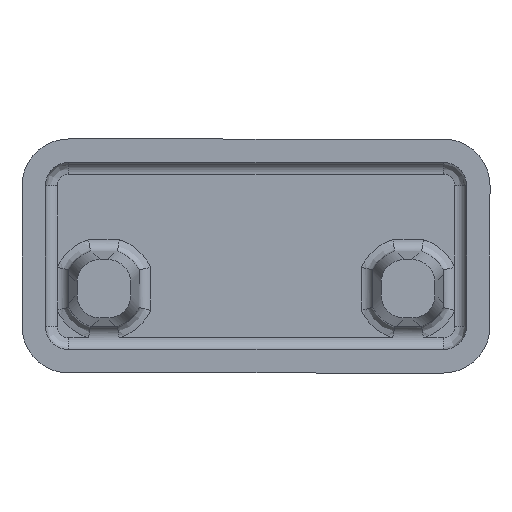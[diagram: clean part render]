
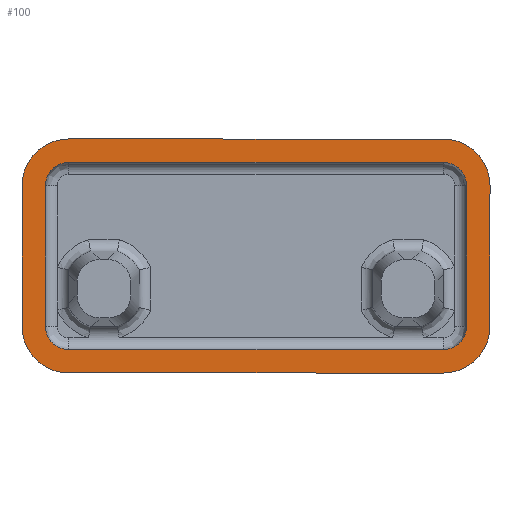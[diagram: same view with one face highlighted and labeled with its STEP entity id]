
A CAD part, front view. The second image highlights one B-rep face of the part: STEP entity #100.
In plain terms, the highlighted planar face has unit normal (0, -1, 0).
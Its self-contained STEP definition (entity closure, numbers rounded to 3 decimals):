
#6 = DIRECTION ( 'NONE',  ( 0., 0., -1. ) ) ;
#20 = CIRCLE ( 'NONE', #2287, 2. ) ;
#24 = EDGE_CURVE ( 'NONE', #589, #2709, #809, .T. ) ;
#45 = DIRECTION ( 'NONE',  ( 0., 0., -1. ) ) ;
#78 = DIRECTION ( 'NONE',  ( -1., 0., 0. ) ) ;
#97 = CARTESIAN_POINT ( 'NONE',  ( 10., -3., 3. ) ) ;
#100 = ADVANCED_FACE ( 'NONE', ( #1747, #662 ), #1333, .F. ) ;
#148 = LINE ( 'NONE', #1380, #1315 ) ;
#150 = DIRECTION ( 'NONE',  ( -1., 0., 0. ) ) ;
#163 = CARTESIAN_POINT ( 'NONE',  ( 10., -3., -3. ) ) ;
#189 = VERTEX_POINT ( 'NONE', #1054 ) ;
#237 = CARTESIAN_POINT ( 'NONE',  ( -8., -3., 5. ) ) ;
#264 = ORIENTED_EDGE ( 'NONE', *, *, #2373, .T. ) ;
#270 = AXIS2_PLACEMENT_3D ( 'NONE', #1061, #2701, #1295 ) ;
#284 = VECTOR ( 'NONE', #2860, 1000. ) ;
#285 = ORIENTED_EDGE ( 'NONE', *, *, #2484, .T. ) ;
#319 = EDGE_CURVE ( 'NONE', #189, #822, #2074, .T. ) ;
#323 = CARTESIAN_POINT ( 'NONE',  ( 8., -3., -3. ) ) ;
#363 = ORIENTED_EDGE ( 'NONE', *, *, #942, .F. ) ;
#398 = DIRECTION ( 'NONE',  ( 0., 0., -1. ) ) ;
#452 = CIRCLE ( 'NONE', #2693, 2. ) ;
#462 = DIRECTION ( 'NONE',  ( 0., -1., 0. ) ) ;
#500 = CARTESIAN_POINT ( 'NONE',  ( -8., -3., -4. ) ) ;
#514 = VERTEX_POINT ( 'NONE', #163 ) ;
#517 = EDGE_CURVE ( 'NONE', #1630, #2202, #2330, .T. ) ;
#531 = DIRECTION ( 'NONE',  ( 0., 0., -1. ) ) ;
#552 = AXIS2_PLACEMENT_3D ( 'NONE', #1394, #3061, #1626 ) ;
#557 = ORIENTED_EDGE ( 'NONE', *, *, #1320, .T. ) ;
#564 = LINE ( 'NONE', #2948, #957 ) ;
#565 = EDGE_LOOP ( 'NONE', ( #1525, #1245, #1163, #603, #2684, #363, #1044, #2077 ) ) ;
#569 = DIRECTION ( 'NONE',  ( 0., 0., -1. ) ) ;
#589 = VERTEX_POINT ( 'NONE', #2062 ) ;
#603 = ORIENTED_EDGE ( 'NONE', *, *, #1143, .F. ) ;
#619 = CARTESIAN_POINT ( 'NONE',  ( -9., -3., -3. ) ) ;
#628 = ORIENTED_EDGE ( 'NONE', *, *, #1714, .F. ) ;
#638 = DIRECTION ( 'NONE',  ( 0., 1., 0. ) ) ;
#642 = CARTESIAN_POINT ( 'NONE',  ( -9., -3., 3. ) ) ;
#647 = CARTESIAN_POINT ( 'NONE',  ( -10., -3., -3. ) ) ;
#658 = VECTOR ( 'NONE', #721, 1000. ) ;
#662 = FACE_OUTER_BOUND ( 'NONE', #1937, .T. ) ;
#700 = DIRECTION ( 'NONE',  ( 1., 0., 0. ) ) ;
#721 = DIRECTION ( 'NONE',  ( 0., 0., -1. ) ) ;
#748 = CARTESIAN_POINT ( 'NONE',  ( -10., -3., 3. ) ) ;
#753 = CARTESIAN_POINT ( 'NONE',  ( 9., -3., -5. ) ) ;
#758 = EDGE_CURVE ( 'NONE', #1630, #822, #2596, .T. ) ;
#773 = EDGE_CURVE ( 'NONE', #2414, #1049, #20, .T. ) ;
#780 = LINE ( 'NONE', #1708, #1928 ) ;
#809 = CIRCLE ( 'NONE', #977, 1. ) ;
#821 = VECTOR ( 'NONE', #6, 1000. ) ;
#822 = VERTEX_POINT ( 'NONE', #647 ) ;
#846 = VERTEX_POINT ( 'NONE', #1795 ) ;
#892 = EDGE_CURVE ( 'NONE', #1064, #2950, #2146, .T. ) ;
#942 = EDGE_CURVE ( 'NONE', #2709, #1064, #986, .T. ) ;
#957 = VECTOR ( 'NONE', #1756, 1000. ) ;
#977 = AXIS2_PLACEMENT_3D ( 'NONE', #2082, #462, #1846 ) ;
#986 = LINE ( 'NONE', #753, #284 ) ;
#1010 = ORIENTED_EDGE ( 'NONE', *, *, #517, .F. ) ;
#1040 = CARTESIAN_POINT ( 'NONE',  ( 8., -3., 5. ) ) ;
#1044 = ORIENTED_EDGE ( 'NONE', *, *, #24, .F. ) ;
#1049 = VERTEX_POINT ( 'NONE', #97 ) ;
#1054 = CARTESIAN_POINT ( 'NONE',  ( -8., -3., -5. ) ) ;
#1061 = CARTESIAN_POINT ( 'NONE',  ( -8., -3., -3. ) ) ;
#1064 = VERTEX_POINT ( 'NONE', #2460 ) ;
#1106 = DIRECTION ( 'NONE',  ( 0., 0., 1. ) ) ;
#1143 = EDGE_CURVE ( 'NONE', #2950, #846, #2412, .T. ) ;
#1150 = CARTESIAN_POINT ( 'NONE',  ( 8., -3., -5. ) ) ;
#1161 = VECTOR ( 'NONE', #150, 1000. ) ;
#1163 = ORIENTED_EDGE ( 'NONE', *, *, #1280, .F. ) ;
#1245 = ORIENTED_EDGE ( 'NONE', *, *, #1529, .F. ) ;
#1273 = VERTEX_POINT ( 'NONE', #1150 ) ;
#1280 = EDGE_CURVE ( 'NONE', #846, #2603, #2189, .T. ) ;
#1295 = DIRECTION ( 'NONE',  ( 0., 0., -1. ) ) ;
#1315 = VECTOR ( 'NONE', #700, 1000. ) ;
#1320 = EDGE_CURVE ( 'NONE', #514, #1049, #1488, .T. ) ;
#1333 = PLANE ( 'NONE',  #2706 ) ;
#1338 = CARTESIAN_POINT ( 'NONE',  ( -10., -3., -5. ) ) ;
#1341 = VECTOR ( 'NONE', #2584, 1000. ) ;
#1380 = CARTESIAN_POINT ( 'NONE',  ( -10., -3., -4. ) ) ;
#1394 = CARTESIAN_POINT ( 'NONE',  ( -8., -3., 3. ) ) ;
#1402 = CARTESIAN_POINT ( 'NONE',  ( 10., -3., 5. ) ) ;
#1434 = AXIS2_PLACEMENT_3D ( 'NONE', #2445, #2135, #1758 ) ;
#1438 = DIRECTION ( 'NONE',  ( 0., 1., 0. ) ) ;
#1441 = CARTESIAN_POINT ( 'NONE',  ( -8., -3., 3. ) ) ;
#1479 = CARTESIAN_POINT ( 'NONE',  ( 9., -3., -3. ) ) ;
#1488 = LINE ( 'NONE', #1402, #1341 ) ;
#1525 = ORIENTED_EDGE ( 'NONE', *, *, #1779, .F. ) ;
#1529 = EDGE_CURVE ( 'NONE', #2603, #2830, #2611, .T. ) ;
#1546 = CARTESIAN_POINT ( 'NONE',  ( -10., -3., 4. ) ) ;
#1626 = DIRECTION ( 'NONE',  ( 0., 0., -1. ) ) ;
#1630 = VERTEX_POINT ( 'NONE', #748 ) ;
#1641 = CARTESIAN_POINT ( 'NONE',  ( -9., -3., -5. ) ) ;
#1680 = DIRECTION ( 'NONE',  ( 0., 1., 0. ) ) ;
#1708 = CARTESIAN_POINT ( 'NONE',  ( 10., -3., 5. ) ) ;
#1712 = ORIENTED_EDGE ( 'NONE', *, *, #773, .F. ) ;
#1714 = EDGE_CURVE ( 'NONE', #514, #1273, #452, .T. ) ;
#1747 = FACE_BOUND ( 'NONE', #565, .T. ) ;
#1756 = DIRECTION ( 'NONE',  ( 1., 0., 0. ) ) ;
#1758 = DIRECTION ( 'NONE',  ( 0., 0., -1. ) ) ;
#1779 = EDGE_CURVE ( 'NONE', #2830, #2222, #2081, .T. ) ;
#1795 = CARTESIAN_POINT ( 'NONE',  ( -8., -3., 4. ) ) ;
#1846 = DIRECTION ( 'NONE',  ( 0., 0., -1. ) ) ;
#1849 = CARTESIAN_POINT ( 'NONE',  ( 8., -3., 4. ) ) ;
#1914 = CARTESIAN_POINT ( 'NONE',  ( -8., -3., -3. ) ) ;
#1928 = VECTOR ( 'NONE', #78, 1000. ) ;
#1937 = EDGE_LOOP ( 'NONE', ( #1712, #264, #1010, #2371, #2942, #285, #628, #557 ) ) ;
#1942 = DIRECTION ( 'NONE',  ( 0., 1., 0. ) ) ;
#1943 = AXIS2_PLACEMENT_3D ( 'NONE', #1441, #1680, #531 ) ;
#2062 = CARTESIAN_POINT ( 'NONE',  ( 8., -3., -4. ) ) ;
#2074 = CIRCLE ( 'NONE', #2652, 2. ) ;
#2077 = ORIENTED_EDGE ( 'NONE', *, *, #2955, .F. ) ;
#2081 = CIRCLE ( 'NONE', #270, 1. ) ;
#2082 = CARTESIAN_POINT ( 'NONE',  ( 8., -3., -3. ) ) ;
#2099 = CARTESIAN_POINT ( 'NONE',  ( -10., -3., 5. ) ) ;
#2135 = DIRECTION ( 'NONE',  ( 0., -1., 0. ) ) ;
#2146 = CIRCLE ( 'NONE', #1434, 1. ) ;
#2189 = CIRCLE ( 'NONE', #552, 1. ) ;
#2202 = VERTEX_POINT ( 'NONE', #237 ) ;
#2222 = VERTEX_POINT ( 'NONE', #500 ) ;
#2287 = AXIS2_PLACEMENT_3D ( 'NONE', #2859, #1438, #45 ) ;
#2330 = CIRCLE ( 'NONE', #1943, 2. ) ;
#2371 = ORIENTED_EDGE ( 'NONE', *, *, #758, .T. ) ;
#2373 = EDGE_CURVE ( 'NONE', #2414, #2202, #780, .T. ) ;
#2412 = LINE ( 'NONE', #1546, #1161 ) ;
#2414 = VERTEX_POINT ( 'NONE', #1040 ) ;
#2445 = CARTESIAN_POINT ( 'NONE',  ( 8., -3., 3. ) ) ;
#2460 = CARTESIAN_POINT ( 'NONE',  ( 9., -3., 3. ) ) ;
#2484 = EDGE_CURVE ( 'NONE', #189, #1273, #564, .T. ) ;
#2584 = DIRECTION ( 'NONE',  ( 0., 0., 1. ) ) ;
#2596 = LINE ( 'NONE', #2099, #658 ) ;
#2603 = VERTEX_POINT ( 'NONE', #642 ) ;
#2611 = LINE ( 'NONE', #1641, #821 ) ;
#2652 = AXIS2_PLACEMENT_3D ( 'NONE', #1914, #638, #398 ) ;
#2684 = ORIENTED_EDGE ( 'NONE', *, *, #892, .F. ) ;
#2693 = AXIS2_PLACEMENT_3D ( 'NONE', #323, #1942, #569 ) ;
#2701 = DIRECTION ( 'NONE',  ( 0., -1., 0. ) ) ;
#2706 = AXIS2_PLACEMENT_3D ( 'NONE', #1338, #2746, #1106 ) ;
#2709 = VERTEX_POINT ( 'NONE', #1479 ) ;
#2746 = DIRECTION ( 'NONE',  ( 0., 1., 0. ) ) ;
#2830 = VERTEX_POINT ( 'NONE', #619 ) ;
#2859 = CARTESIAN_POINT ( 'NONE',  ( 8., -3., 3. ) ) ;
#2860 = DIRECTION ( 'NONE',  ( 0., 0., 1. ) ) ;
#2942 = ORIENTED_EDGE ( 'NONE', *, *, #319, .F. ) ;
#2948 = CARTESIAN_POINT ( 'NONE',  ( 10., -3., -5. ) ) ;
#2950 = VERTEX_POINT ( 'NONE', #1849 ) ;
#2955 = EDGE_CURVE ( 'NONE', #2222, #589, #148, .T. ) ;
#3061 = DIRECTION ( 'NONE',  ( 0., -1., 0. ) ) ;
